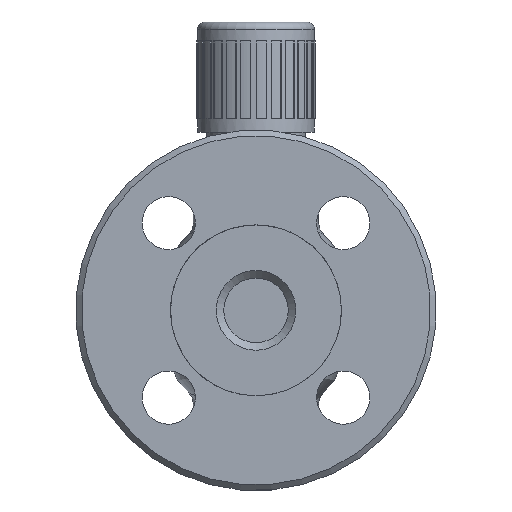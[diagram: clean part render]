
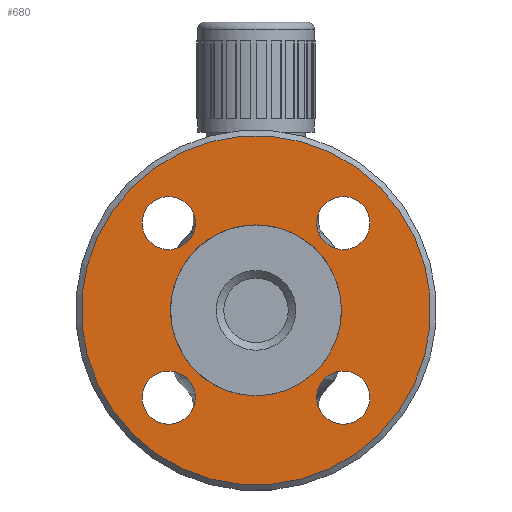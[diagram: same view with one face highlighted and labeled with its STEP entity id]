
A CAD part, left-side view. The second image highlights one B-rep face of the part: STEP entity #680.
In plain terms, the highlighted planar face has unit normal (-1, 0, 0).
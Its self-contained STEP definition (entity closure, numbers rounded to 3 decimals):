
#312=PLANE('',#4485);
#457=FACE_BOUND('',#1216,.T.);
#458=FACE_BOUND('',#1217,.T.);
#459=FACE_BOUND('',#1218,.T.);
#460=FACE_BOUND('',#1219,.T.);
#461=FACE_BOUND('',#1220,.T.);
#462=FACE_BOUND('',#1221,.T.);
#680=ADVANCED_FACE('',(#457,#458,#459,#460,#461,#462),#312,.T.);
#1216=EDGE_LOOP('',(#1900));
#1217=EDGE_LOOP('',(#1901));
#1218=EDGE_LOOP('',(#1902));
#1219=EDGE_LOOP('',(#1903));
#1220=EDGE_LOOP('',(#1904));
#1221=EDGE_LOOP('',(#1905));
#1643=CIRCLE('',#4479,46.);
#1644=CIRCLE('',#4480,22.5);
#1645=CIRCLE('',#4481,7.);
#1646=CIRCLE('',#4482,7.);
#1647=CIRCLE('',#4483,7.);
#1648=CIRCLE('',#4484,7.);
#1900=ORIENTED_EDGE('',*,*,#3456,.T.);
#1901=ORIENTED_EDGE('',*,*,#3457,.F.);
#1902=ORIENTED_EDGE('',*,*,#3458,.T.);
#1903=ORIENTED_EDGE('',*,*,#3459,.T.);
#1904=ORIENTED_EDGE('',*,*,#3460,.T.);
#1905=ORIENTED_EDGE('',*,*,#3461,.T.);
#3050=VERTEX_POINT('',#6282);
#3051=VERTEX_POINT('',#6284);
#3052=VERTEX_POINT('',#6286);
#3053=VERTEX_POINT('',#6288);
#3054=VERTEX_POINT('',#6290);
#3055=VERTEX_POINT('',#6292);
#3456=EDGE_CURVE('',#3050,#3050,#1643,.T.);
#3457=EDGE_CURVE('',#3051,#3051,#1644,.T.);
#3458=EDGE_CURVE('',#3052,#3052,#1645,.T.);
#3459=EDGE_CURVE('',#3053,#3053,#1646,.T.);
#3460=EDGE_CURVE('',#3054,#3054,#1647,.T.);
#3461=EDGE_CURVE('',#3055,#3055,#1648,.T.);
#4479=AXIS2_PLACEMENT_3D('',#6281,#5017,#5018);
#4480=AXIS2_PLACEMENT_3D('',#6283,#5019,#5020);
#4481=AXIS2_PLACEMENT_3D('',#6285,#5021,#5022);
#4482=AXIS2_PLACEMENT_3D('',#6287,#5023,#5024);
#4483=AXIS2_PLACEMENT_3D('',#6289,#5025,#5026);
#4484=AXIS2_PLACEMENT_3D('',#6291,#5027,#5028);
#4485=AXIS2_PLACEMENT_3D('',#6293,#5029,#5030);
#5017=DIRECTION('',(-1.,0.,0.));
#5018=DIRECTION('',(0.,0.707,0.707));
#5019=DIRECTION('',(-1.,0.,0.));
#5020=DIRECTION('',(0.,0.707,0.707));
#5021=DIRECTION('',(1.,0.,0.));
#5022=DIRECTION('',(0.,-0.707,0.707));
#5023=DIRECTION('',(1.,0.,0.));
#5024=DIRECTION('',(0.,0.707,0.707));
#5025=DIRECTION('',(1.,0.,0.));
#5026=DIRECTION('',(0.,0.707,-0.707));
#5027=DIRECTION('',(1.,0.,0.));
#5028=DIRECTION('',(0.,-0.707,-0.707));
#5029=DIRECTION('',(-1.,0.,0.));
#5030=DIRECTION('',(0.,0.707,0.707));
#6281=CARTESIAN_POINT('',(37.,0.,100.));
#6282=CARTESIAN_POINT('',(37.,32.527,132.527));
#6283=CARTESIAN_POINT('',(37.,0.,100.));
#6284=CARTESIAN_POINT('',(37.,15.91,115.91));
#6285=CARTESIAN_POINT('',(37.,22.981,122.981));
#6286=CARTESIAN_POINT('',(37.,18.031,127.931));
#6287=CARTESIAN_POINT('',(37.,22.981,77.019));
#6288=CARTESIAN_POINT('',(37.,27.931,81.969));
#6289=CARTESIAN_POINT('',(37.,-22.981,77.019));
#6290=CARTESIAN_POINT('',(37.,-18.031,72.069));
#6291=CARTESIAN_POINT('',(37.,-22.981,122.981));
#6292=CARTESIAN_POINT('',(37.,-27.931,118.031));
#6293=CARTESIAN_POINT('',(37.,0.,100.));
